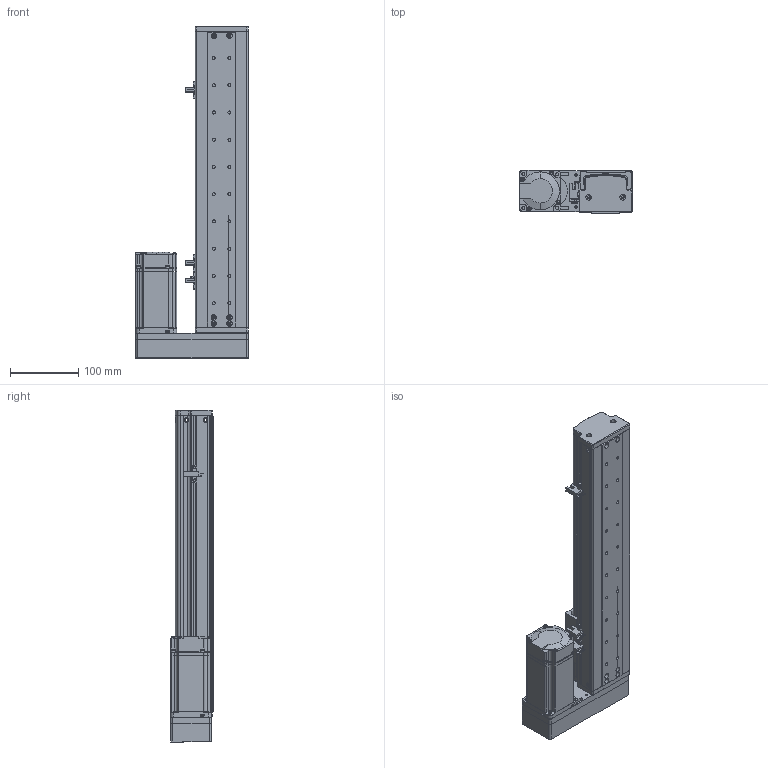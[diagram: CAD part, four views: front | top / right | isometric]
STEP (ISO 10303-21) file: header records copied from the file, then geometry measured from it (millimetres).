
FILE_DESCRIPTION (( 'STEP AP214' ), '1' );
FILE_NAME ('KSD75S-S280-MR-CM.STEP', '2019-10-18T07:13:25', ( '微软用户' ), ( '微软中国' ), 'SwSTEP 2.0', 'SolidWorks 2014', '' );
FILE_SCHEMA (( 'AUTOMOTIVE_DESIGN' ));
Length unit declared in the file: millimetre
Products named in the file (13): 75宽模组保护罩左右折; 75宽马达安装板连板左右折丝杆; 覜茼え100遵圉猾敕; U倰嫖萇EEㄜSX672; 綴傷啣 ; ヶ傷啣; 75裔啣-280俴最; 75遵耀郪耜啣-280俴最; 75遵賑雄釱; MGW15H賑寢280俴最 ; 280俴最; KSD75S-S280-MR-CM; MHMD042G1CA_2_03
Assembly tree (15 placements, depth 3):
  KSD75S-S280-MR-CM
    MGW15H賑寢280俴最 
      280俴最
    75遵賑雄釱
    75遵耀郪耜啣-280俴最  x2
    75裔啣-280俴最
    ヶ傷啣
    綴傷啣 
    U倰嫖萇EEㄜSX672  x3
    覜茼え100遵圉猾敕
    75宽马达安装板连板左右折丝杆
    75宽模组保护罩左右折
    MHMD042G1CA_2_03
Bounding box: 165 x 63 x 487.5 mm (x, y, z)
Volume: 724251.1 mm3; surface area: 454493 mm2
Topology: 13 solids, 14 shells, 1433 faces, 4066 edges, 2653 vertices
Faces by surface type: cylinder 667, plane 619, cone 129, bspline 18
Entity records: 45994 total; most frequent: CARTESIAN_POINT 8768, DIRECTION 6824, ORIENTED_EDGE 6412, EDGE_CURVE 3277, AXIS2_PLACEMENT_3D 2488, VERTEX_POINT 2171, VECTOR 1848, LINE 1848
